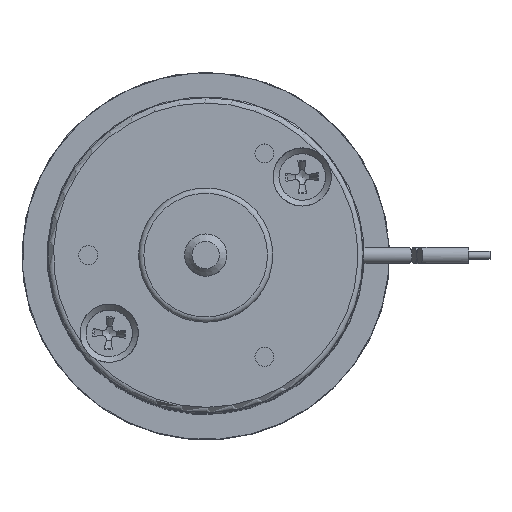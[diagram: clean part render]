
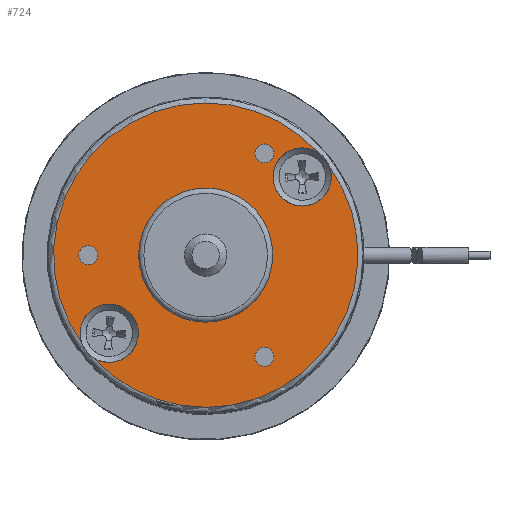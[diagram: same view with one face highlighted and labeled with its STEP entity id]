
A CAD part, top view. The second image highlights one B-rep face of the part: STEP entity #724.
In plain terms, the highlighted planar face has unit normal (0, 0, 1).
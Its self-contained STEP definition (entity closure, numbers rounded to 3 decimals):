
#361=CARTESIAN_POINT('',(5.556,-10.524,83.0));
#362=VERTEX_POINT('',#361);
#363=CARTESIAN_POINT('',(5.556,-9.624,83.0));
#364=DIRECTION('',(0.0,0.0,-1.0));
#365=DIRECTION('',(0.0,-1.0,0.0));
#366=AXIS2_PLACEMENT_3D('',#363,#364,#365);
#367=CIRCLE('',#366,0.9);
#368=EDGE_CURVE('',#362,#362,#367,.T.);
#398=CARTESIAN_POINT('',(5.556,8.724,83.0));
#399=VERTEX_POINT('',#398);
#400=CARTESIAN_POINT('',(5.556,9.624,83.0));
#401=DIRECTION('',(0.0,0.0,-1.0));
#402=DIRECTION('',(0.0,-1.0,0.0));
#403=AXIS2_PLACEMENT_3D('',#400,#401,#402);
#404=CIRCLE('',#403,0.9);
#405=EDGE_CURVE('',#399,#399,#404,.T.);
#435=CARTESIAN_POINT('',(-11.113,-0.9,83.0));
#436=VERTEX_POINT('',#435);
#437=CARTESIAN_POINT('',(-11.113,0.,83.0));
#438=DIRECTION('',(0.0,0.0,-1.0));
#439=DIRECTION('',(0.0,-1.0,0.0));
#440=AXIS2_PLACEMENT_3D('',#437,#438,#439);
#441=CIRCLE('',#440,0.9);
#442=EDGE_CURVE('',#436,#436,#441,.T.);
#475=CARTESIAN_POINT('',(10.661,9.68,83.0));
#476=VERTEX_POINT('',#475);
#477=CARTESIAN_POINT('',(11.685,8.416,83.0));
#478=VERTEX_POINT('',#477);
#498=CARTESIAN_POINT('',(9.131,7.395,83.0));
#499=DIRECTION('',(0.0,0.0,-1.0));
#500=DIRECTION('',(0.0,-1.0,0.0));
#501=AXIS2_PLACEMENT_3D('',#498,#499,#500);
#502=CIRCLE('',#501,2.75);
#503=EDGE_CURVE('',#478,#476,#502,.T.);
#516=CARTESIAN_POINT('',(-10.661,-9.68,83.0));
#517=VERTEX_POINT('',#516);
#518=CARTESIAN_POINT('',(-11.685,-8.416,83.0));
#519=VERTEX_POINT('',#518);
#539=CARTESIAN_POINT('',(-9.131,-7.395,83.0));
#540=DIRECTION('',(0.0,0.0,-1.0));
#541=DIRECTION('',(0.0,-1.0,0.0));
#542=AXIS2_PLACEMENT_3D('',#539,#540,#541);
#543=CIRCLE('',#542,2.75);
#544=EDGE_CURVE('',#519,#517,#543,.T.);
#555=CARTESIAN_POINT('',(0.,0.,83.0));
#556=DIRECTION('',(0.0,0.0,-1.0));
#557=DIRECTION('',(0.0,-1.0,0.0));
#558=AXIS2_PLACEMENT_3D('',#555,#556,#557);
#559=CIRCLE('',#558,14.4);
#560=EDGE_CURVE('',#478,#517,#559,.T.);
#563=CARTESIAN_POINT('',(0.,0.,83.0));
#564=DIRECTION('',(0.0,0.0,-1.0));
#565=DIRECTION('',(0.0,-1.0,0.0));
#566=AXIS2_PLACEMENT_3D('',#563,#564,#565);
#567=CIRCLE('',#566,14.4);
#568=EDGE_CURVE('',#519,#476,#567,.T.);
#666=CARTESIAN_POINT('',(0.,-6.35,83.0));
#667=VERTEX_POINT('',#666);
#668=CARTESIAN_POINT('',(0.,0.,83.0));
#669=DIRECTION('',(0.0,0.0,-1.0));
#670=DIRECTION('',(0.0,1.0,0.0));
#671=AXIS2_PLACEMENT_3D('',#668,#669,#670);
#672=CIRCLE('',#671,6.35);
#673=EDGE_CURVE('',#667,#667,#672,.T.);
#701=CARTESIAN_POINT('',(0.,0.,83.0));
#702=DIRECTION('',(0.0,0.0,-1.0));
#703=DIRECTION('',(0.0,1.0,0.0));
#704=AXIS2_PLACEMENT_3D('',#701,#702,#703);
#705=PLANE('',#704);
#706=ORIENTED_EDGE('',*,*,#503,.T.);
#707=ORIENTED_EDGE('',*,*,#568,.F.);
#708=ORIENTED_EDGE('',*,*,#544,.T.);
#709=ORIENTED_EDGE('',*,*,#560,.F.);
#710=EDGE_LOOP('',(#706,#707,#708,#709));
#711=FACE_OUTER_BOUND('',#710,.T.);
#712=ORIENTED_EDGE('',*,*,#368,.T.);
#713=EDGE_LOOP('',(#712));
#714=FACE_BOUND('',#713,.T.);
#715=ORIENTED_EDGE('',*,*,#405,.T.);
#716=EDGE_LOOP('',(#715));
#717=FACE_BOUND('',#716,.T.);
#718=ORIENTED_EDGE('',*,*,#442,.T.);
#719=EDGE_LOOP('',(#718));
#720=FACE_BOUND('',#719,.T.);
#721=ORIENTED_EDGE('',*,*,#673,.T.);
#722=EDGE_LOOP('',(#721));
#723=FACE_BOUND('',#722,.T.);
#724=ADVANCED_FACE('',(#711,#714,#717,#720,#723),#705,.F.);
